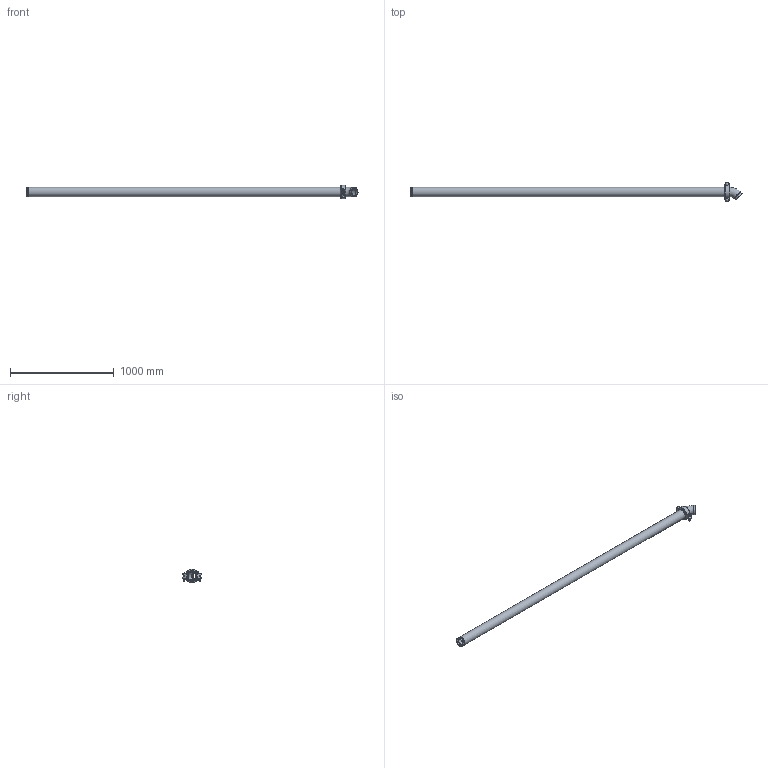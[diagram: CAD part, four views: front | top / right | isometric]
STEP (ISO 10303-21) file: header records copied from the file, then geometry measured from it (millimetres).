
FILE_DESCRIPTION(/* description */ ('VIC LONG RUN FITTING No R24 (OGS)','CAx-IF Rec.Pracs.---Representation and Presentation of Product Manufacturing Information (PMI)---4.0---2014-10-13'),/* implementation_level */ '2;1');
FILE_NAME(/* name */ 'C:\Users\Vjadhav\AppData\Roaming\Autodesk\ApplicationPlugins\Back Up\Victaulic_IPS_Long Run Fittings_No R24 (OGS)\Victaulic_IPS_Long Run Fittings_No R24 (OGS)_3 (80).stp',/* time_stamp */ '2020-10-13T19:13:42+06:00',/* author */ ('Vjadhav'),/* organization */ ('Victaulic'),/* preprocessor_version */ 'ST-DEVELOPER v17.2',/* originating_system */ 'Autodesk Inventor 2019',/* authorisation */ '');
FILE_SCHEMA (('AP242_MANAGED_MODEL_BASED_3D_ENGINEERING_MIM_LF { 1 0 10303 442 1 1 4 }'));
Length unit declared in the file: inch
Products named in the file (4): R24-03.0; 011-03.0; 177N-03.0; Pipe_R13-03.0
Assembly tree (3 placements, depth 2):
  R24-03.0
    011-03.0
    177N-03.0
    Pipe_R13-03.0
Bounding box: 3194.18 x 185.18 x 127 mm (x, y, z)
Volume: 4970742.5 mm3; surface area: 1740756.4 mm2
Topology: 3 solids, 3 shells, 117 faces, 317 edges, 214 vertices
Faces by surface type: plane 68, cylinder 37, torus 6, cone 4, sphere 2
Full cylindrical faces by diameter (mm): 12.7 x2, 22.225 x2, 76.2 x1, 77.927 x3, 84.938 x4, 88.9 x7
Entity records: 4128 total; most frequent: CARTESIAN_POINT 731, DIRECTION 689, ORIENTED_EDGE 642, EDGE_CURVE 321, AXIS2_PLACEMENT_3D 260, VERTEX_POINT 214, LINE 169, VECTOR 169
